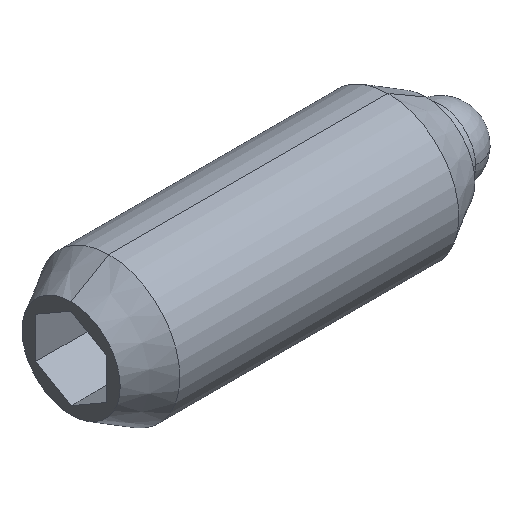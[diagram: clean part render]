
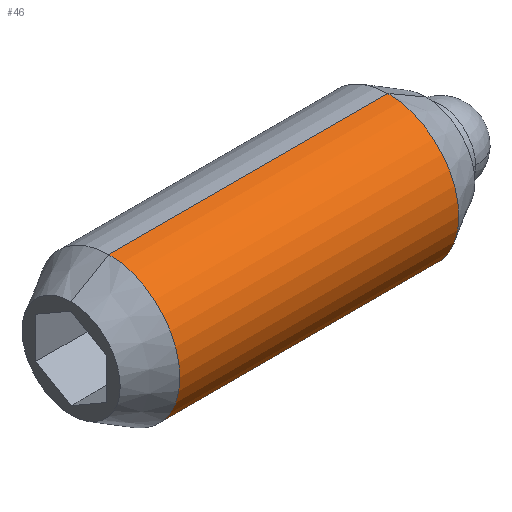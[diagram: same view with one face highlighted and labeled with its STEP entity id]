
A CAD part, isometric view. The second image highlights one B-rep face of the part: STEP entity #46.
In plain terms, the highlighted cylindrical face has radius 6.35 mm (diameter 12.7 mm), a partial arc.
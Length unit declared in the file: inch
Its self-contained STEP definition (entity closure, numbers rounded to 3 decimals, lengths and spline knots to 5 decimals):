
#46 = ADVANCED_FACE ( 'NONE', ( #426 ), #425, .T. ) ;
#47 = EDGE_LOOP ( 'NONE', ( #48, #49, #51, #52 ) ) ;
#48 = ORIENTED_EDGE ( 'NONE', *, *, #232, .F. ) ;
#49 = ORIENTED_EDGE ( 'NONE', *, *, #50, .T. ) ;
#50 = EDGE_CURVE ( 'NONE', #208, #211, #423, .T. ) ;
#51 = ORIENTED_EDGE ( 'NONE', *, *, #235, .T. ) ;
#52 = ORIENTED_EDGE ( 'NONE', *, *, #53, .T. ) ;
#53 = EDGE_CURVE ( 'NONE', #222, #225, #415, .T. ) ;
#208 = VERTEX_POINT ( 'NONE', #680 ) ;
#211 = VERTEX_POINT ( 'NONE', #674 ) ;
#222 = VERTEX_POINT ( 'NONE', #712 ) ;
#225 = VERTEX_POINT ( 'NONE', #706 ) ;
#232 = EDGE_CURVE ( 'NONE', #208, #225, #756, .T. ) ;
#235 = EDGE_CURVE ( 'NONE', #211, #222, #752, .T. ) ;
#414 = AXIS2_PLACEMENT_3D ( 'NONE', #475, #474, #473 ) ;
#415 = CIRCLE ( 'NONE', #414, 0.25 ) ;
#416 = DIRECTION ( 'NONE',  ( 0., 0., -1. ) ) ;
#417 = DIRECTION ( 'NONE',  ( -1., 0., 0. ) ) ;
#418 = CARTESIAN_POINT ( 'NONE',  ( 1.11663, 0., 0. ) ) ;
#419 = AXIS2_PLACEMENT_3D ( 'NONE', #418, #417, #416 ) ;
#420 = DIRECTION ( 'NONE',  ( 0., 0., 1. ) ) ;
#421 = DIRECTION ( 'NONE',  ( -1., 0., 0. ) ) ;
#422 = AXIS2_PLACEMENT_3D ( 'NONE', #424, #421, #420 ) ;
#423 = CIRCLE ( 'NONE', #419, 0.25 ) ;
#424 = CARTESIAN_POINT ( 'NONE',  ( 1.25, 0., 0. ) ) ;
#425 = CYLINDRICAL_SURFACE ( 'NONE', #422, 0.25 ) ;
#426 = FACE_OUTER_BOUND ( 'NONE', #47, .T. ) ;
#473 = DIRECTION ( 'NONE',  ( 0., 0., -1. ) ) ;
#474 = DIRECTION ( 'NONE',  ( 1., 0., 0. ) ) ;
#475 = CARTESIAN_POINT ( 'NONE',  ( 0.13337, 0., 0. ) ) ;
#674 = CARTESIAN_POINT ( 'NONE',  ( 1.11663, 0., 0.25 ) ) ;
#680 = CARTESIAN_POINT ( 'NONE',  ( 1.11663, 0., -0.25 ) ) ;
#706 = CARTESIAN_POINT ( 'NONE',  ( 0.13337, 0., -0.25 ) ) ;
#712 = CARTESIAN_POINT ( 'NONE',  ( 0.13337, 0., 0.25 ) ) ;
#749 = DIRECTION ( 'NONE',  ( -1., 0., 0. ) ) ;
#750 = VECTOR ( 'NONE', #749, 39.37008 ) ;
#751 = CARTESIAN_POINT ( 'NONE',  ( 1.25, 0., 0.25 ) ) ;
#752 = LINE ( 'NONE', #751, #750 ) ;
#753 = DIRECTION ( 'NONE',  ( -1., 0., 0. ) ) ;
#754 = VECTOR ( 'NONE', #753, 39.37008 ) ;
#755 = CARTESIAN_POINT ( 'NONE',  ( 1.25, 0., -0.25 ) ) ;
#756 = LINE ( 'NONE', #755, #754 ) ;
